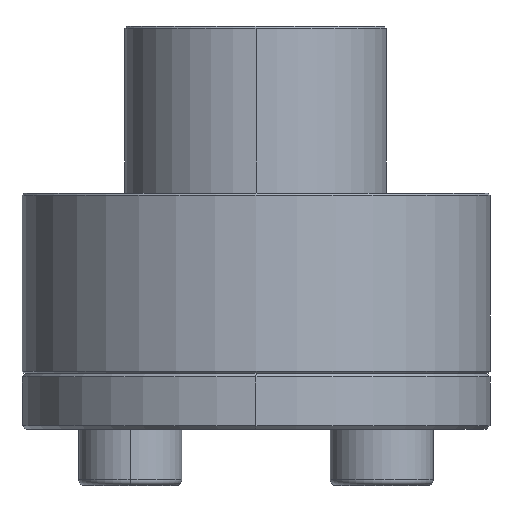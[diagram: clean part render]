
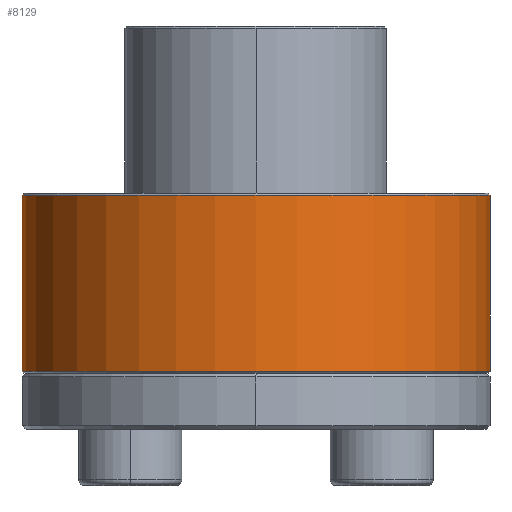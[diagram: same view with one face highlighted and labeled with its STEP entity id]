
A CAD part, left-side view. The second image highlights one B-rep face of the part: STEP entity #8129.
In plain terms, the highlighted cylindrical face has radius 12.5 mm (diameter 25 mm), a partial arc.
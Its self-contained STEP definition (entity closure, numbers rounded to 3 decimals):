
#17 = AXIS2_PLACEMENT_3D ( 'NONE', #1149, #1143, #1153 ) ;
#271 = AXIS2_PLACEMENT_3D ( 'NONE', #4279, #4284, #4285 ) ;
#405 = EDGE_CURVE ( 'NONE', #1299, #1327, #3920, .T. ) ;
#614 = EDGE_CURVE ( 'NONE', #1554, #1457, #3772, .T. ) ;
#680 = EDGE_CURVE ( 'NONE', #1457, #1327, #3910, .T. ) ;
#752 = EDGE_CURVE ( 'NONE', #1299, #1554, #6702, .T. ) ;
#1143 = DIRECTION ( 'NONE',  ( 0., 0., 1. ) ) ;
#1149 = CARTESIAN_POINT ( 'NONE',  ( 0., 0., 3.1 ) ) ;
#1153 = DIRECTION ( 'NONE',  ( 0., 1., 0. ) ) ;
#1299 = VERTEX_POINT ( 'NONE', #5461 ) ;
#1327 = VERTEX_POINT ( 'NONE', #5488 ) ;
#1457 = VERTEX_POINT ( 'NONE', #5592 ) ;
#1554 = VERTEX_POINT ( 'NONE', #5673 ) ;
#2008 = CARTESIAN_POINT ( 'NONE',  ( 0., -12.5, 12.6 ) ) ;
#2011 = DIRECTION ( 'NONE',  ( 0., 0., -1. ) ) ;
#2286 = CARTESIAN_POINT ( 'NONE',  ( 0., 12.5, 12.6 ) ) ;
#2287 = DIRECTION ( 'NONE',  ( 0., 0., -1. ) ) ;
#2878 = EDGE_LOOP ( 'NONE', ( #3320, #3295, #2939, #2940 ) ) ;
#2939 = ORIENTED_EDGE ( 'NONE', *, *, #680, .T. ) ;
#2940 = ORIENTED_EDGE ( 'NONE', *, *, #405, .F. ) ;
#3295 = ORIENTED_EDGE ( 'NONE', *, *, #614, .T. ) ;
#3320 = ORIENTED_EDGE ( 'NONE', *, *, #752, .T. ) ;
#3656 = VECTOR ( 'NONE', #2287, 1000. ) ;
#3678 = VECTOR ( 'NONE', #2011, 1000. ) ;
#3772 = LINE ( 'NONE', #2286, #3656 ) ;
#3910 = CIRCLE ( 'NONE', #17, 12.5 ) ;
#3920 = LINE ( 'NONE', #2008, #3678 ) ;
#4279 = CARTESIAN_POINT ( 'NONE',  ( 0., 0., 12.5 ) ) ;
#4284 = DIRECTION ( 'NONE',  ( 0., 0., -1. ) ) ;
#4285 = DIRECTION ( 'NONE',  ( 0., 1., 0. ) ) ;
#5461 = CARTESIAN_POINT ( 'NONE',  ( 0., -12.5, 12.5 ) ) ;
#5488 = CARTESIAN_POINT ( 'NONE',  ( 0., -12.5, 3.1 ) ) ;
#5592 = CARTESIAN_POINT ( 'NONE',  ( 0., 12.5, 3.1 ) ) ;
#5673 = CARTESIAN_POINT ( 'NONE',  ( 0., 12.5, 12.5 ) ) ;
#6559 = DIRECTION ( 'NONE',  ( 0., -1., 0. ) ) ;
#6560 = DIRECTION ( 'NONE',  ( 0., 0., -1. ) ) ;
#6568 = CARTESIAN_POINT ( 'NONE',  ( 0., 0., 12.6 ) ) ;
#6702 = CIRCLE ( 'NONE', #271, 12.5 ) ;
#8009 = FACE_OUTER_BOUND ( 'NONE', #2878, .T. ) ;
#8010 = CYLINDRICAL_SURFACE ( 'NONE', #8237, 12.5 ) ;
#8129 = ADVANCED_FACE ( 'NONE', ( #8009 ), #8010, .T. ) ;
#8237 = AXIS2_PLACEMENT_3D ( 'NONE', #6568, #6560, #6559 ) ;
